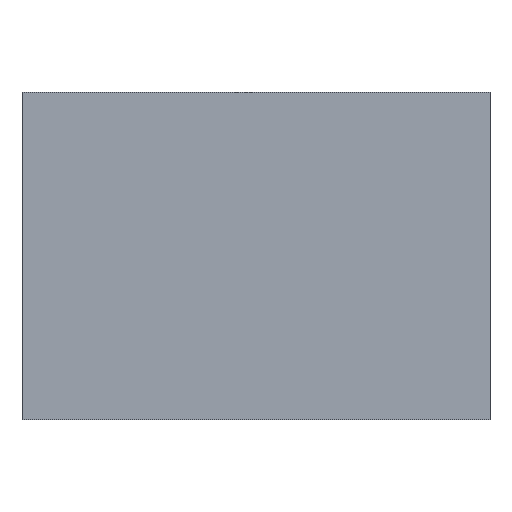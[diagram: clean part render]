
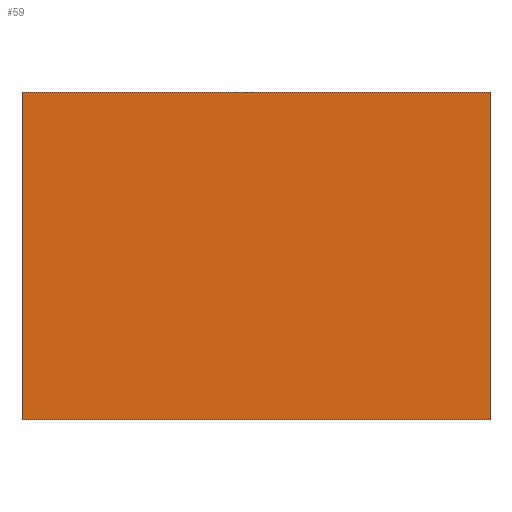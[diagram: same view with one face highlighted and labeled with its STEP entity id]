
A CAD part, top view. The second image highlights one B-rep face of the part: STEP entity #59.
In plain terms, the highlighted planar face has unit normal (0, 0, 1).
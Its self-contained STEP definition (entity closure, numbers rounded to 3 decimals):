
#14 = AXIS2_PLACEMENT_3D ( 'NONE', #100, #663, #854 ) ;
#40 = EDGE_CURVE ( 'NONE', #1222, #809, #482, .T. ) ;
#41 = VERTEX_POINT ( 'NONE', #203 ) ;
#52 = DIRECTION ( 'NONE',  ( 1., 0., 0. ) ) ;
#59 = ADVANCED_FACE ( 'NONE', ( #586 ), #873, .T. ) ;
#90 = VECTOR ( 'NONE', #1143, 1000. ) ;
#100 = CARTESIAN_POINT ( 'NONE',  ( 0., 0., 10. ) ) ;
#203 = CARTESIAN_POINT ( 'NONE',  ( 25., -17.5, 10. ) ) ;
#356 = ORIENTED_EDGE ( 'NONE', *, *, #40, .T. ) ;
#374 = EDGE_CURVE ( 'NONE', #41, #1222, #549, .T. ) ;
#482 = LINE ( 'NONE', #955, #860 ) ;
#516 = CARTESIAN_POINT ( 'NONE',  ( -25., -17.5, 10. ) ) ;
#549 = LINE ( 'NONE', #1027, #964 ) ;
#562 = VECTOR ( 'NONE', #52, 1000. ) ;
#582 = DIRECTION ( 'NONE',  ( -1., 0., 0. ) ) ;
#586 = FACE_OUTER_BOUND ( 'NONE', #683, .T. ) ;
#599 = ORIENTED_EDGE ( 'NONE', *, *, #374, .T. ) ;
#609 = CARTESIAN_POINT ( 'NONE',  ( -25., 17.5, 10. ) ) ;
#652 = CARTESIAN_POINT ( 'NONE',  ( 25., 17.5, 10. ) ) ;
#663 = DIRECTION ( 'NONE',  ( 0., 0., 1. ) ) ;
#683 = EDGE_LOOP ( 'NONE', ( #803, #745, #599, #356 ) ) ;
#745 = ORIENTED_EDGE ( 'NONE', *, *, #868, .T. ) ;
#803 = ORIENTED_EDGE ( 'NONE', *, *, #1033, .T. ) ;
#809 = VERTEX_POINT ( 'NONE', #1230 ) ;
#821 = DIRECTION ( 'NONE',  ( 0., 1., 0. ) ) ;
#826 = CARTESIAN_POINT ( 'NONE',  ( -25., -17.5, 10. ) ) ;
#854 = DIRECTION ( 'NONE',  ( 1., 0., 0. ) ) ;
#860 = VECTOR ( 'NONE', #582, 1000. ) ;
#868 = EDGE_CURVE ( 'NONE', #1184, #41, #1115, .T. ) ;
#873 = PLANE ( 'NONE',  #14 ) ;
#894 = LINE ( 'NONE', #609, #90 ) ;
#955 = CARTESIAN_POINT ( 'NONE',  ( -25., 17.5, 10. ) ) ;
#964 = VECTOR ( 'NONE', #821, 1000. ) ;
#1027 = CARTESIAN_POINT ( 'NONE',  ( 25., 17.5, 10. ) ) ;
#1033 = EDGE_CURVE ( 'NONE', #809, #1184, #894, .T. ) ;
#1115 = LINE ( 'NONE', #826, #562 ) ;
#1143 = DIRECTION ( 'NONE',  ( 0., -1., 0. ) ) ;
#1184 = VERTEX_POINT ( 'NONE', #516 ) ;
#1222 = VERTEX_POINT ( 'NONE', #652 ) ;
#1230 = CARTESIAN_POINT ( 'NONE',  ( -25., 17.5, 10. ) ) ;
